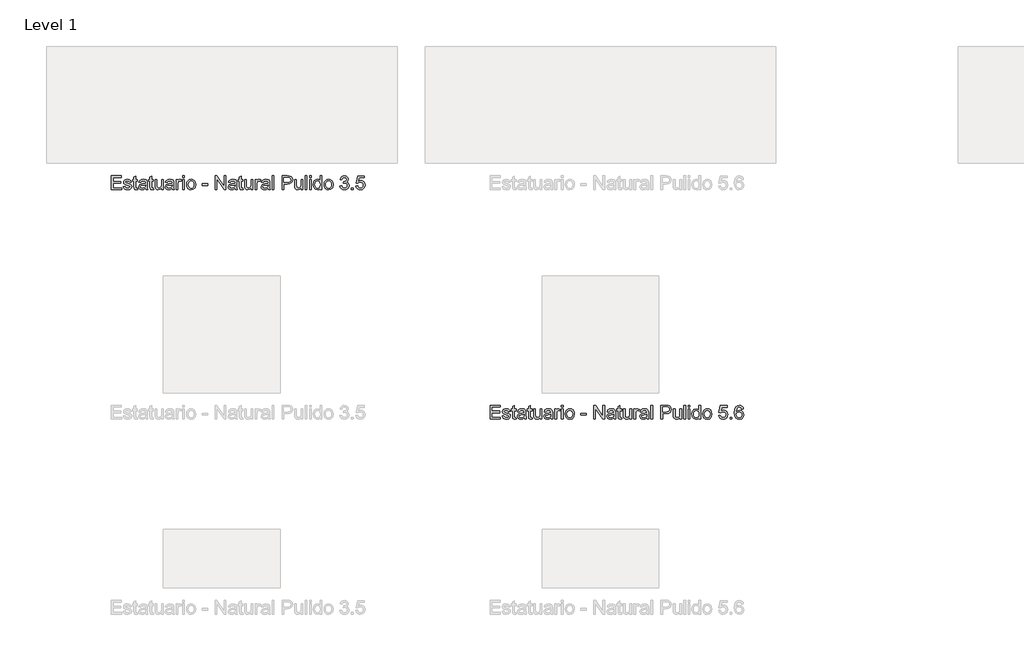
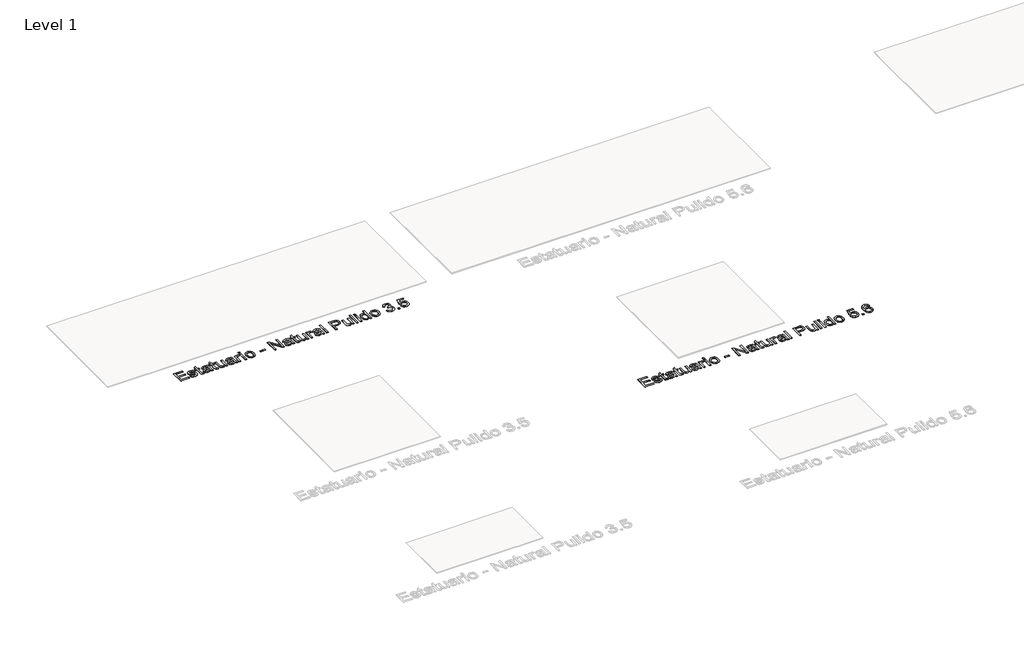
# One storey, part 77 of 80: 2 proxies.
"""IFC4 building model written with IfcOpenShell, lengths in millimetres."""

from ifc_helpers import new_model, si_unit, origin, origin_with_axes, place, context, project, spatial, polyline, outline, extrude, element, save

model = new_model("IFC4")

# Units and contexts
model_context = context("Model", 3, world=origin())
ifc_project = project(units=[si_unit("LENGTHUNIT", "METRE", prefix="MILLI")], contexts=[model_context])

# Site, building, storey
site = spatial("IfcSite", under=ifc_project)
building = spatial("IfcBuilding", under=site)
storey = spatial("IfcBuildingStorey", under=building, Name="Level 1", Elevation=0.0)

# Proxies
placement = place(None, origin())
element("IfcBuildingElementProxy", 1, Name="24\" Arial", ObjectType="24\" Arial", at=placement, inside=storey, context=model_context, shape_type="SweptSolid", body=[
    extrude(outline(polyline([(7830.1546613, 17258.6980297), (7830.1546613, 17376.8518759), (7915.0777383, 17376.8518759), (7915.0777383, 17362.0826451), (7844.9238921, 17362.0826451), (7844.9238921, 17327.005722), (7911.3854306, 17327.005722), (7911.3854306, 17312.2364912), (7844.9238921, 17312.2364912), (7844.9238921, 17273.4672605), (7916.9238921, 17273.4672605), (7916.9238921, 17258.6980297), (7830.1546613, 17258.6980297)])), origin_with_axes(), (0.0, 0.0, 1.0), 2.0),
    extrude(outline(polyline([(7931.6931229, 17284.5441836), (7946.4623536, 17286.3903374), (7953.2988921, 17275.4287989), (7968.9623536, 17271.6211066), (7984.0200459, 17275.1114912), (7988.9238921, 17283.3037989), (7983.9911998, 17289.9384143), (7968.7892767, 17294.1499528), (7946.5488921, 17301.3759143), (7936.8421613, 17309.8134143), (7933.5392767, 17321.7268759), (7936.1931229, 17332.7316836), (7943.4335075, 17341.1403374), (7952.8229306, 17345.5105297), (7965.5296613, 17347.3134143), (7983.5008152, 17344.4143759), (7994.9238921, 17336.568222), (8000.0008152, 17323.3134143), (7985.2315844, 17321.4672605), (7979.6786998, 17329.6162989), (7966.6835075, 17332.5441836), (7952.5488921, 17329.7461066), (7948.3085075, 17323.2268759), (7950.0681229, 17318.9287989), (7955.5777383, 17315.6691836), (7968.2988921, 17312.5249528), (7989.9767767, 17305.5730297), (8000.0440844, 17297.6980297), (8003.6931229, 17284.8614912), (7999.409469, 17270.7268759), (7987.0488921, 17260.4720682), (7968.7604306, 17256.8518759), (7953.8686036, 17258.5970682), (7943.0008152, 17263.8326451), (7935.7460075, 17272.5009143), (7931.6931229, 17284.5441836)])), origin_with_axes(), (0.0, 0.0, 1.0), 2.0),
    extrude(outline(polyline([(8051.6931229, 17271.0153374), (8053.5392767, 17258.2653374), (8042.4911998, 17256.8518759), (8030.1161998, 17259.3037989), (8023.9431229, 17265.7364912), (8022.1546613, 17282.4961066), (8022.1546613, 17330.6980297), (8011.0777383, 17330.6980297), (8011.0777383, 17345.4672605), (8022.1546613, 17345.4672605), (8022.1546613, 17366.5537989), (8036.9238921, 17375.2364912), (8036.9238921, 17345.4672605), (8051.6931229, 17345.4672605), (8051.6931229, 17330.6980297), (8036.9238921, 17330.6980297), (8036.9238921, 17282.9287989), (8037.7027383, 17275.3134143), (8040.2267767, 17272.6162989), (8045.2604306, 17271.6211066), (8051.6931229, 17271.0153374)])), origin_with_axes(), (0.0, 0.0, 1.0), 2.0),
    extrude(outline(polyline([(8121.846969, 17269.7749528), (8107.5248536, 17259.7653374), (8091.7027383, 17256.8518759), (8079.3601902, 17258.6042797), (8070.2556229, 17263.8614912), (8064.6414402, 17271.8446643), (8062.7700459, 17281.7749528), (8065.596969, 17293.4576451), (8073.0248536, 17301.9384143), (8083.3661998, 17306.7845682), (8096.1450459, 17309.005722), (8121.7604306, 17314.0826451), (8121.846969, 17317.3711066), (8117.7796613, 17328.2749528), (8101.4527383, 17332.5441836), (8086.5104306, 17329.7028374), (8079.3854306, 17319.6211066), (8064.6161998, 17321.4672605), (8071.0056229, 17335.8903374), (8083.8710075, 17344.3422605), (8103.3565844, 17347.3134143), (8121.2556229, 17344.6884143), (8131.3661998, 17338.0970682), (8135.8950459, 17328.0730297), (8136.6161998, 17315.1499528), (8136.6161998, 17296.7749528), (8137.3661998, 17271.1162989), (8140.3085075, 17258.6980297), (8125.5392767, 17258.6980297), (8121.846969, 17269.7749528)]), holes=[polyline([(8121.846969, 17299.3134143), (8098.0200459, 17294.7845682), (8085.3133152, 17292.3903374), (8079.5585075, 17288.4961066), (8077.5392767, 17282.8134143), (8081.9383152, 17274.8230297), (8094.846969, 17271.6211066), (8109.7892767, 17275.1547605), (8119.4238921, 17283.7076451), (8121.7604306, 17295.130722), (8121.846969, 17299.3134143)])]), origin_with_axes(), (0.0, 0.0, 1.0), 2.0),
    extrude(outline(polyline([(8188.3085075, 17271.0153374), (8190.1546613, 17258.2653374), (8179.1065844, 17256.8518759), (8166.7315844, 17259.3037989), (8160.5585075, 17265.7364912), (8158.7700459, 17282.4961066), (8158.7700459, 17330.6980297), (8147.6931229, 17330.6980297), (8147.6931229, 17345.4672605), (8158.7700459, 17345.4672605), (8158.7700459, 17366.5537989), (8173.5392767, 17375.2364912), (8173.5392767, 17345.4672605), (8188.3085075, 17345.4672605), (8188.3085075, 17330.6980297), (8173.5392767, 17330.6980297), (8173.5392767, 17282.9287989), (8174.3181229, 17275.3134143), (8176.8421613, 17272.6162989), (8181.8758152, 17271.6211066), (8188.3085075, 17271.0153374)])), origin_with_axes(), (0.0, 0.0, 1.0), 2.0),
    extrude(outline(polyline([(8258.4623536, 17258.6980297), (8258.4623536, 17273.6114912), (8246.8950459, 17261.0417797), (8231.8085075, 17256.8518759), (8217.9190844, 17259.7941836), (8208.3421613, 17267.1787989), (8203.9431229, 17278.0537989), (8203.0777383, 17291.7845682), (8203.0777383, 17345.4672605), (8217.846969, 17345.4672605), (8217.846969, 17298.7364912), (8218.7411998, 17283.6787989), (8224.5825459, 17274.8374528), (8235.5873536, 17271.6211066), (8247.9190844, 17274.9095682), (8256.0681229, 17283.8662989), (8258.4623536, 17300.3230297), (8258.4623536, 17345.4672605), (8273.2315844, 17345.4672605), (8273.2315844, 17258.6980297), (8258.4623536, 17258.6980297)])), origin_with_axes(), (0.0, 0.0, 1.0), 2.0),
    extrude(outline(polyline([(8348.9238921, 17269.7749528), (8334.6017767, 17259.7653374), (8318.7796613, 17256.8518759), (8306.4371133, 17258.6042797), (8297.3325459, 17263.8614912), (8291.7183633, 17271.8446643), (8289.846969, 17281.7749528), (8292.6738921, 17293.4576451), (8300.1017767, 17301.9384143), (8310.4431229, 17306.7845682), (8323.221969, 17309.005722), (8348.8373536, 17314.0826451), (8348.9238921, 17317.3711066), (8344.8565844, 17328.2749528), (8328.5296613, 17332.5441836), (8313.5873536, 17329.7028374), (8306.4623536, 17319.6211066), (8291.6931229, 17321.4672605), (8298.0825459, 17335.8903374), (8310.9479306, 17344.3422605), (8330.4335075, 17347.3134143), (8348.3325459, 17344.6884143), (8358.4431229, 17338.0970682), (8362.971969, 17328.0730297), (8363.6931229, 17315.1499528), (8363.6931229, 17296.7749528), (8364.4431229, 17271.1162989), (8367.3854306, 17258.6980297), (8352.6161998, 17258.6980297), (8348.9238921, 17269.7749528)]), holes=[polyline([(8348.9238921, 17299.3134143), (8325.096969, 17294.7845682), (8312.3902383, 17292.3903374), (8306.6354306, 17288.4961066), (8304.6161998, 17282.8134143), (8309.0152383, 17274.8230297), (8321.9238921, 17271.6211066), (8336.8661998, 17275.1547605), (8346.5008152, 17283.7076451), (8348.8373536, 17295.130722), (8348.9238921, 17299.3134143)])]), origin_with_axes(), (0.0, 0.0, 1.0), 2.0),
    extrude(outline(polyline([(8384.0008152, 17258.6980297), (8384.0008152, 17345.4672605), (8396.9238921, 17345.4672605), (8396.9238921, 17332.630722), (8406.096969, 17344.4576451), (8415.3277383, 17347.3134143), (8430.1546613, 17342.755722), (8425.221969, 17329.5153374), (8414.8373536, 17332.5441836), (8406.4863921, 17329.630722), (8401.1642767, 17321.5537989), (8398.7700459, 17304.3037989), (8398.7700459, 17258.6980297), (8384.0008152, 17258.6980297)])), origin_with_axes(), (0.0, 0.0, 1.0), 2.0),
    extrude(outline(polyline([(8439.3854306, 17362.0826451), (8439.3854306, 17376.8518759), (8454.1546613, 17376.8518759), (8454.1546613, 17362.0826451), (8439.3854306, 17362.0826451)])), origin_with_axes(), (0.0, 0.0, 1.0), 2.0),
    extrude(outline(polyline([(8439.3854306, 17258.6980297), (8439.3854306, 17345.4672605), (8454.1546613, 17345.4672605), (8454.1546613, 17258.6980297), (8439.3854306, 17258.6980297)])), origin_with_axes(), (0.0, 0.0, 1.0), 2.0),
    extrude(outline(polyline([(8472.6161998, 17302.0826451), (8475.8109113, 17323.0033182), (8485.3950459, 17337.7076451), (8497.2363921, 17344.911972), (8511.4142767, 17347.3134143), (8526.9299017, 17344.3891355), (8539.3229306, 17335.6162989), (8547.4467286, 17321.6872124), (8550.1546613, 17303.2941836), (8545.3661998, 17277.0153374), (8531.4190844, 17262.1451451), (8511.4142767, 17256.8518759), (8495.7111517, 17259.7653374), (8483.3325459, 17268.505722), (8475.2952863, 17282.7268759), (8472.6161998, 17302.0826451)]), holes=[polyline([(8487.3854306, 17302.1114912), (8489.0945652, 17288.7449047), (8494.221969, 17279.2220682), (8501.9383152, 17273.521347), (8511.4142767, 17271.6211066), (8520.846969, 17273.5321643), (8528.5488921, 17279.2653374), (8533.6762959, 17288.9143759), (8535.3854306, 17302.5730297), (8533.6654786, 17315.5501932), (8528.5056229, 17324.943222), (8520.7928825, 17330.6439432), (8511.4142767, 17332.5441836), (8501.9383152, 17330.6511547), (8494.221969, 17324.9720682), (8489.0945652, 17315.4708662), (8487.3854306, 17302.1114912)])]), origin_with_axes(), (0.0, 0.0, 1.0), 2.0),
    extrude(outline(polyline([(8605.5392767, 17293.7749528), (8605.5392767, 17308.5441836), (8651.6931229, 17308.5441836), (8651.6931229, 17293.7749528), (8605.5392767, 17293.7749528)])), origin_with_axes(), (0.0, 0.0, 1.0), 2.0),
    extrude(outline(polyline([(8716.3085075, 17258.6980297), (8716.3085075, 17376.8518759), (8732.1161998, 17376.8518759), (8793.846969, 17283.2461066), (8793.846969, 17376.8518759), (8808.6161998, 17376.8518759), (8808.6161998, 17258.6980297), (8792.8085075, 17258.6980297), (8731.0777383, 17352.3326451), (8731.0777383, 17258.6980297), (8716.3085075, 17258.6980297)])), origin_with_axes(), (0.0, 0.0, 1.0), 2.0),
    extrude(outline(polyline([(8888.0008152, 17269.7749528), (8873.6786998, 17259.7653374), (8857.8565844, 17256.8518759), (8845.5140363, 17258.6042797), (8836.409469, 17263.8614912), (8830.7952863, 17271.8446643), (8828.9238921, 17281.7749528), (8831.7508152, 17293.4576451), (8839.1786998, 17301.9384143), (8849.5200459, 17306.7845682), (8862.2988921, 17309.005722), (8887.9142767, 17314.0826451), (8888.0008152, 17317.3711066), (8883.9335075, 17328.2749528), (8867.6065844, 17332.5441836), (8852.6642767, 17329.7028374), (8845.5392767, 17319.6211066), (8830.7700459, 17321.4672605), (8837.159469, 17335.8903374), (8850.0248536, 17344.3422605), (8869.5104306, 17347.3134143), (8887.409469, 17344.6884143), (8897.5200459, 17338.0970682), (8902.0488921, 17328.0730297), (8902.7700459, 17315.1499528), (8902.7700459, 17296.7749528), (8903.5200459, 17271.1162989), (8906.4623536, 17258.6980297), (8891.6931229, 17258.6980297), (8888.0008152, 17269.7749528)]), holes=[polyline([(8888.0008152, 17299.3134143), (8864.1738921, 17294.7845682), (8851.4671613, 17292.3903374), (8845.7123536, 17288.4961066), (8843.6931229, 17282.8134143), (8848.0921613, 17274.8230297), (8861.0008152, 17271.6211066), (8875.9431229, 17275.1547605), (8885.5777383, 17283.7076451), (8887.9142767, 17295.130722), (8888.0008152, 17299.3134143)])]), origin_with_axes(), (0.0, 0.0, 1.0), 2.0),
    extrude(outline(polyline([(8954.4623536, 17271.0153374), (8956.3085075, 17258.2653374), (8945.2604306, 17256.8518759), (8932.8854306, 17259.3037989), (8926.7123536, 17265.7364912), (8924.9238921, 17282.4961066), (8924.9238921, 17330.6980297), (8913.846969, 17330.6980297), (8913.846969, 17345.4672605), (8924.9238921, 17345.4672605), (8924.9238921, 17366.5537989), (8939.6931229, 17375.2364912), (8939.6931229, 17345.4672605), (8954.4623536, 17345.4672605), (8954.4623536, 17330.6980297), (8939.6931229, 17330.6980297), (8939.6931229, 17282.9287989), (8940.471969, 17275.3134143), (8942.9960075, 17272.6162989), (8948.0296613, 17271.6211066), (8954.4623536, 17271.0153374)])), origin_with_axes(), (0.0, 0.0, 1.0), 2.0),
    extrude(outline(polyline([(9024.6161998, 17258.6980297), (9024.6161998, 17273.6114912), (9013.0488921, 17261.0417797), (8997.9623536, 17256.8518759), (8984.0729306, 17259.7941836), (8974.4960075, 17267.1787989), (8970.096969, 17278.0537989), (8969.2315844, 17291.7845682), (8969.2315844, 17345.4672605), (8984.0008152, 17345.4672605), (8984.0008152, 17298.7364912), (8984.8950459, 17283.6787989), (8990.7363921, 17274.8374528), (9001.7411998, 17271.6211066), (9014.0729306, 17274.9095682), (9022.221969, 17283.8662989), (9024.6161998, 17300.3230297), (9024.6161998, 17345.4672605), (9039.3854306, 17345.4672605), (9039.3854306, 17258.6980297), (9024.6161998, 17258.6980297)])), origin_with_axes(), (0.0, 0.0, 1.0), 2.0),
    extrude(outline(polyline([(9059.6931229, 17258.6980297), (9059.6931229, 17345.4672605), (9072.6161998, 17345.4672605), (9072.6161998, 17332.630722), (9081.7892767, 17344.4576451), (9091.0200459, 17347.3134143), (9105.846969, 17342.755722), (9100.9142767, 17329.5153374), (9090.5296613, 17332.5441836), (9082.1786998, 17329.630722), (9076.8565844, 17321.5537989), (9074.4623536, 17304.3037989), (9074.4623536, 17258.6980297), (9059.6931229, 17258.6980297)])), origin_with_axes(), (0.0, 0.0, 1.0), 2.0),
    extrude(outline(polyline([(9170.4623536, 17269.7749528), (9156.1402383, 17259.7653374), (9140.3181229, 17256.8518759), (9127.9755748, 17258.6042797), (9118.8710075, 17263.8614912), (9113.2568248, 17271.8446643), (9111.3854306, 17281.7749528), (9114.2123536, 17293.4576451), (9121.6402383, 17301.9384143), (9131.9815844, 17306.7845682), (9144.7604306, 17309.005722), (9170.3758152, 17314.0826451), (9170.4623536, 17317.3711066), (9166.3950459, 17328.2749528), (9150.0681229, 17332.5441836), (9135.1258152, 17329.7028374), (9128.0008152, 17319.6211066), (9113.2315844, 17321.4672605), (9119.6210075, 17335.8903374), (9132.4863921, 17344.3422605), (9151.971969, 17347.3134143), (9169.8710075, 17344.6884143), (9179.9815844, 17338.0970682), (9184.5104306, 17328.0730297), (9185.2315844, 17315.1499528), (9185.2315844, 17296.7749528), (9185.9815844, 17271.1162989), (9188.9238921, 17258.6980297), (9174.1546613, 17258.6980297), (9170.4623536, 17269.7749528)]), holes=[polyline([(9170.4623536, 17299.3134143), (9146.6354306, 17294.7845682), (9133.9286998, 17292.3903374), (9128.1738921, 17288.4961066), (9126.1546613, 17282.8134143), (9130.5536998, 17274.8230297), (9143.4623536, 17271.6211066), (9158.4046613, 17275.1547605), (9168.0392767, 17283.7076451), (9170.3758152, 17295.130722), (9170.4623536, 17299.3134143)])]), origin_with_axes(), (0.0, 0.0, 1.0), 2.0),
    extrude(outline(polyline([(9205.5392767, 17258.6980297), (9205.5392767, 17376.8518759), (9220.3085075, 17376.8518759), (9220.3085075, 17258.6980297), (9205.5392767, 17258.6980297)])), origin_with_axes(), (0.0, 0.0, 1.0), 2.0),
    extrude(outline(polyline([(9290.4623536, 17258.6980297), (9290.4623536, 17376.8518759), (9334.2508152, 17376.8518759), (9351.9046613, 17375.7268759), (9366.2556229, 17370.2028374), (9375.5585075, 17358.7797605), (9379.0777383, 17342.6691836), (9376.7015363, 17328.7437028), (9369.5729306, 17317.1403374), (9356.2424017, 17309.3086066), (9335.2604306, 17306.6980297), (9305.2315844, 17306.6980297), (9305.2315844, 17258.6980297), (9290.4623536, 17258.6980297)]), holes=[polyline([(9305.2315844, 17321.4672605), (9336.1258152, 17321.4672605), (9349.221969, 17322.8230297), (9357.8758152, 17326.8903374), (9362.7003344, 17333.4167797), (9364.3085075, 17342.1499528), (9360.5152383, 17354.380722), (9350.5488921, 17361.0730297), (9335.7796613, 17362.0826451), (9305.2315844, 17362.0826451), (9305.2315844, 17321.4672605)])]), origin_with_axes(), (0.0, 0.0, 1.0), 2.0),
    extrude(outline(polyline([(9452.9238921, 17258.6980297), (9452.9238921, 17273.6114912), (9441.3565844, 17261.0417797), (9426.2700459, 17256.8518759), (9412.3806229, 17259.7941836), (9402.8036998, 17267.1787989), (9398.4046613, 17278.0537989), (9397.5392767, 17291.7845682), (9397.5392767, 17345.4672605), (9412.3085075, 17345.4672605), (9412.3085075, 17298.7364912), (9413.2027383, 17283.6787989), (9419.0440844, 17274.8374528), (9430.0488921, 17271.6211066), (9442.3806229, 17274.9095682), (9450.5296613, 17283.8662989), (9452.9238921, 17300.3230297), (9452.9238921, 17345.4672605), (9467.6931229, 17345.4672605), (9467.6931229, 17258.6980297), (9452.9238921, 17258.6980297)])), origin_with_axes(), (0.0, 0.0, 1.0), 2.0),
    extrude(outline(polyline([(9488.0008152, 17258.6980297), (9488.0008152, 17376.8518759), (9502.7700459, 17376.8518759), (9502.7700459, 17258.6980297), (9488.0008152, 17258.6980297)])), origin_with_axes(), (0.0, 0.0, 1.0), 2.0),
    extrude(outline(polyline([(9524.9238921, 17362.0826451), (9524.9238921, 17376.8518759), (9539.6931229, 17376.8518759), (9539.6931229, 17362.0826451), (9524.9238921, 17362.0826451)])), origin_with_axes(), (0.0, 0.0, 1.0), 2.0),
    extrude(outline(polyline([(9524.9238921, 17258.6980297), (9524.9238921, 17345.4672605), (9539.6931229, 17345.4672605), (9539.6931229, 17258.6980297), (9524.9238921, 17258.6980297)])), origin_with_axes(), (0.0, 0.0, 1.0), 2.0),
    extrude(outline(polyline([(9615.3854306, 17258.6980297), (9615.3854306, 17272.630722), (9605.6137959, 17260.7965874), (9592.1065844, 17256.8518759), (9573.8181229, 17262.5634143), (9560.8950459, 17278.5009143), (9556.3085075, 17301.9961066), (9560.534469, 17325.505722), (9565.8133152, 17334.8302412), (9573.1979306, 17341.6884143), (9592.0488921, 17347.3134143), (9605.6642767, 17343.2893759), (9615.3854306, 17332.8326451), (9615.3854306, 17376.8518759), (9630.1546613, 17376.8518759), (9630.1546613, 17258.6980297), (9615.3854306, 17258.6980297)]), holes=[polyline([(9571.0777383, 17302.0537989), (9572.7436036, 17288.6944239), (9577.7411998, 17279.193222), (9585.003219, 17273.5141355), (9593.4623536, 17271.6211066), (9601.9178825, 17273.427597), (9608.9960075, 17278.8470682), (9613.7880748, 17287.9804816), (9615.3854306, 17300.9287989), (9613.7592286, 17315.0850489), (9608.8806229, 17324.8999528), (9601.6222094, 17330.6331259), (9592.8565844, 17332.5441836), (9584.3109113, 17330.708847), (9577.3085075, 17325.2028374), (9572.6354306, 17315.7449047), (9571.0777383, 17302.0537989)])]), origin_with_axes(), (0.0, 0.0, 1.0), 2.0),
    extrude(outline(polyline([(9648.6161998, 17302.0826451), (9651.8109113, 17323.0033182), (9661.3950459, 17337.7076451), (9673.2363921, 17344.911972), (9687.4142767, 17347.3134143), (9702.9299017, 17344.3891355), (9715.3229306, 17335.6162989), (9723.4467286, 17321.6872124), (9726.1546613, 17303.2941836), (9721.3661998, 17277.0153374), (9707.4190844, 17262.1451451), (9687.4142767, 17256.8518759), (9671.7111517, 17259.7653374), (9659.3325459, 17268.505722), (9651.2952863, 17282.7268759), (9648.6161998, 17302.0826451)]), holes=[polyline([(9663.3854306, 17302.1114912), (9665.0945652, 17288.7449047), (9670.221969, 17279.2220682), (9677.9383152, 17273.521347), (9687.4142767, 17271.6211066), (9696.846969, 17273.5321643), (9704.5488921, 17279.2653374), (9709.6762959, 17288.9143759), (9711.3854306, 17302.5730297), (9709.6654786, 17315.5501932), (9704.5056229, 17324.943222), (9696.7928825, 17330.6439432), (9687.4142767, 17332.5441836), (9677.9383152, 17330.6511547), (9670.221969, 17324.9720682), (9665.0945652, 17315.4708662), (9663.3854306, 17302.1114912)])]), origin_with_axes(), (0.0, 0.0, 1.0), 2.0),
    extrude(outline(polyline([(9785.2315844, 17290.0826451), (9800.0008152, 17291.9287989), (9807.4431229, 17276.7124528), (9822.8758152, 17271.6211066), (9833.4623536, 17273.3915393), (9841.3950459, 17278.7028374), (9846.3493729, 17286.9420201), (9848.0008152, 17297.4961066), (9846.4539402, 17307.4336066), (9841.8133152, 17315.0345682), (9834.0428825, 17319.8590874), (9823.1065844, 17321.4672605), (9810.1402383, 17318.8999528), (9801.846969, 17312.2364912), (9787.0777383, 17314.0826451), (9800.0008152, 17375.005722), (9857.2315844, 17375.005722), (9857.2315844, 17360.2364912), (9811.9431229, 17360.2364912), (9805.6258152, 17327.6980297), (9816.1762959, 17334.1018759), (9827.2315844, 17336.2364912), (9841.0308633, 17333.5898566), (9852.4863921, 17325.6499528), (9860.1991325, 17313.5489912), (9862.7700459, 17298.4191836), (9860.4551421, 17283.6499528), (9853.5104306, 17271.0153374), (9840.2123536, 17260.3927412), (9822.8181229, 17256.8518759), (9808.3121133, 17259.1271162), (9796.7556229, 17265.9528374), (9788.8337479, 17276.5357701), (9785.2315844, 17290.0826451)])), origin_with_axes(), (0.0, 0.0, 1.0), 2.0),
    extrude(outline(polyline([(9883.0777383, 17258.6980297), (9883.0777383, 17273.4672605), (9897.846969, 17273.4672605), (9897.846969, 17258.6980297), (9883.0777383, 17258.6980297)])), origin_with_axes(), (0.0, 0.0, 1.0), 2.0),
    extrude(outline(polyline([(9997.5392767, 17345.4672605), (9982.7700459, 17343.6211066), (9977.1738921, 17355.9384143), (9970.4743729, 17360.5465874), (9962.3758152, 17362.0826451), (9949.0488921, 17358.505722), (9938.9671613, 17345.0778374), (9934.7700459, 17318.755722), (9947.7940844, 17330.5393759), (9963.9335075, 17334.3903374), (9977.5777383, 17331.7581259), (9989.0296613, 17323.8614912), (9996.7964883, 17311.7965874), (9999.3854306, 17296.6595682), (9994.5104306, 17276.2797605), (9981.096969, 17261.8566836), (9961.7411998, 17256.8518759), (9944.9851902, 17260.1691836), (9931.6402383, 17270.1211066), (9922.9106709, 17287.6884143), (9920.0008152, 17313.8518759), (9923.2315844, 17343.2677412), (9932.9238921, 17363.380722), (9946.1570652, 17373.4840874), (9963.2988921, 17376.8518759), (9976.2580267, 17374.7677412), (9986.6354306, 17368.5153374), (9993.9046613, 17358.5850489), (9997.5392767, 17345.4672605)]), holes=[polyline([(9934.7700459, 17296.8903374), (9938.1883152, 17284.0970682), (9947.2748536, 17274.8086066), (9960.5873536, 17271.6211066), (9970.3337479, 17273.2725489), (9977.9960075, 17278.2268759), (9982.9611517, 17286.0153374), (9984.6161998, 17296.1691836), (9982.9827863, 17305.9155778), (9978.0825459, 17313.3470682), (9970.2904786, 17318.052597), (9959.9815844, 17319.6211066), (9950.2496133, 17318.052597), (9942.1113921, 17313.3470682), (9936.6053825, 17306.0958662), (9934.7700459, 17296.8903374)])]), origin_with_axes(), (0.0, 0.0, 1.0), 2.0),
])
element("IfcBuildingElementProxy", 2, Name="24\" Arial", ObjectType="24\" Arial", at=placement, inside=storey, context=model_context, shape_type="SweptSolid", body=[
    extrude(outline(polyline([(4590.1546613, 19224.0250725), (4590.1546613, 19342.1789187), (4675.0777383, 19342.1789187), (4675.0777383, 19327.4096879), (4604.9238921, 19327.4096879), (4604.9238921, 19292.3327648), (4671.3854306, 19292.3327648), (4671.3854306, 19277.563534), (4604.9238921, 19277.563534), (4604.9238921, 19238.7943033), (4676.9238921, 19238.7943033), (4676.9238921, 19224.0250725), (4590.1546613, 19224.0250725)])), origin_with_axes(), (0.0, 0.0, 1.0), 2.0),
    extrude(outline(polyline([(4691.6931229, 19249.8712264), (4706.4623536, 19251.7173802), (4713.2988921, 19240.7558417), (4728.9623536, 19236.9481494), (4744.0200459, 19240.438534), (4748.9238921, 19248.6308417), (4743.9911998, 19255.2654571), (4728.7892767, 19259.4769956), (4706.5488921, 19266.7029571), (4696.8421613, 19275.1404571), (4693.5392767, 19287.0539187), (4696.1931229, 19298.0587264), (4703.4335075, 19306.4673802), (4712.8229306, 19310.8375725), (4725.5296613, 19312.6404571), (4743.5008152, 19309.7414187), (4754.9238921, 19301.8952648), (4760.0008152, 19288.6404571), (4745.2315844, 19286.7943033), (4739.6786998, 19294.9433417), (4726.6835075, 19297.8712264), (4712.5488921, 19295.0731494), (4708.3085075, 19288.5539187), (4710.0681229, 19284.2558417), (4715.5777383, 19280.9962264), (4728.2988921, 19277.8519956), (4749.9767767, 19270.9000725), (4760.0440844, 19263.0250725), (4763.6931229, 19250.188534), (4759.409469, 19236.0539187), (4747.0488921, 19225.799111), (4728.7604306, 19222.1789187), (4713.8686036, 19223.924111), (4703.0008152, 19229.1596879), (4695.7460075, 19237.8279571), (4691.6931229, 19249.8712264)])), origin_with_axes(), (0.0, 0.0, 1.0), 2.0),
    extrude(outline(polyline([(4811.6931229, 19236.3423802), (4813.5392767, 19223.5923802), (4802.4911998, 19222.1789187), (4790.1161998, 19224.6308417), (4783.9431229, 19231.063534), (4782.1546613, 19247.8231494), (4782.1546613, 19296.0250725), (4771.0777383, 19296.0250725), (4771.0777383, 19310.7943033), (4782.1546613, 19310.7943033), (4782.1546613, 19331.8808417), (4796.9238921, 19340.563534), (4796.9238921, 19310.7943033), (4811.6931229, 19310.7943033), (4811.6931229, 19296.0250725), (4796.9238921, 19296.0250725), (4796.9238921, 19248.2558417), (4797.7027383, 19240.6404571), (4800.2267767, 19237.9433417), (4805.2604306, 19236.9481494), (4811.6931229, 19236.3423802)])), origin_with_axes(), (0.0, 0.0, 1.0), 2.0),
    extrude(outline(polyline([(4881.846969, 19235.1019956), (4867.5248536, 19225.0923802), (4851.7027383, 19222.1789187), (4839.3601902, 19223.9313225), (4830.2556229, 19229.188534), (4824.6414402, 19237.1717071), (4822.7700459, 19247.1019956), (4825.596969, 19258.7846879), (4833.0248536, 19267.2654571), (4843.3661998, 19272.111611), (4856.1450459, 19274.3327648), (4881.7604306, 19279.4096879), (4881.846969, 19282.6981494), (4877.7796613, 19293.6019956), (4861.4527383, 19297.8712264), (4846.5104306, 19295.0298802), (4839.3854306, 19284.9481494), (4824.6161998, 19286.7943033), (4831.0056229, 19301.2173802), (4843.8710075, 19309.6693033), (4863.3565844, 19312.6404571), (4881.2556229, 19310.0154571), (4891.3661998, 19303.424111), (4895.8950459, 19293.4000725), (4896.6161998, 19280.4769956), (4896.6161998, 19262.1019956), (4897.3661998, 19236.4433417), (4900.3085075, 19224.0250725), (4885.5392767, 19224.0250725), (4881.846969, 19235.1019956)]), holes=[polyline([(4881.846969, 19264.6404571), (4858.0200459, 19260.111611), (4845.3133152, 19257.7173802), (4839.5585075, 19253.8231494), (4837.5392767, 19248.1404571), (4841.9383152, 19240.1500725), (4854.846969, 19236.9481494), (4869.7892767, 19240.4818033), (4879.4238921, 19249.0346879), (4881.7604306, 19260.4577648), (4881.846969, 19264.6404571)])]), origin_with_axes(), (0.0, 0.0, 1.0), 2.0),
    extrude(outline(polyline([(4948.3085075, 19236.3423802), (4950.1546613, 19223.5923802), (4939.1065844, 19222.1789187), (4926.7315844, 19224.6308417), (4920.5585075, 19231.063534), (4918.7700459, 19247.8231494), (4918.7700459, 19296.0250725), (4907.6931229, 19296.0250725), (4907.6931229, 19310.7943033), (4918.7700459, 19310.7943033), (4918.7700459, 19331.8808417), (4933.5392767, 19340.563534), (4933.5392767, 19310.7943033), (4948.3085075, 19310.7943033), (4948.3085075, 19296.0250725), (4933.5392767, 19296.0250725), (4933.5392767, 19248.2558417), (4934.3181229, 19240.6404571), (4936.8421613, 19237.9433417), (4941.8758152, 19236.9481494), (4948.3085075, 19236.3423802)])), origin_with_axes(), (0.0, 0.0, 1.0), 2.0),
    extrude(outline(polyline([(5018.4623536, 19224.0250725), (5018.4623536, 19238.938534), (5006.8950459, 19226.3688225), (4991.8085075, 19222.1789187), (4977.9190844, 19225.1212264), (4968.3421613, 19232.5058417), (4963.9431229, 19243.3808417), (4963.0777383, 19257.111611), (4963.0777383, 19310.7943033), (4977.846969, 19310.7943033), (4977.846969, 19264.063534), (4978.7411998, 19249.0058417), (4984.5825459, 19240.1644956), (4995.5873536, 19236.9481494), (5007.9190844, 19240.236611), (5016.0681229, 19249.1933417), (5018.4623536, 19265.6500725), (5018.4623536, 19310.7943033), (5033.2315844, 19310.7943033), (5033.2315844, 19224.0250725), (5018.4623536, 19224.0250725)])), origin_with_axes(), (0.0, 0.0, 1.0), 2.0),
    extrude(outline(polyline([(5108.9238921, 19235.1019956), (5094.6017767, 19225.0923802), (5078.7796613, 19222.1789187), (5066.4371133, 19223.9313225), (5057.3325459, 19229.188534), (5051.7183633, 19237.1717071), (5049.846969, 19247.1019956), (5052.6738921, 19258.7846879), (5060.1017767, 19267.2654571), (5070.4431229, 19272.111611), (5083.221969, 19274.3327648), (5108.8373536, 19279.4096879), (5108.9238921, 19282.6981494), (5104.8565844, 19293.6019956), (5088.5296613, 19297.8712264), (5073.5873536, 19295.0298802), (5066.4623536, 19284.9481494), (5051.6931229, 19286.7943033), (5058.0825459, 19301.2173802), (5070.9479306, 19309.6693033), (5090.4335075, 19312.6404571), (5108.3325459, 19310.0154571), (5118.4431229, 19303.424111), (5122.971969, 19293.4000725), (5123.6931229, 19280.4769956), (5123.6931229, 19262.1019956), (5124.4431229, 19236.4433417), (5127.3854306, 19224.0250725), (5112.6161998, 19224.0250725), (5108.9238921, 19235.1019956)]), holes=[polyline([(5108.9238921, 19264.6404571), (5085.096969, 19260.111611), (5072.3902383, 19257.7173802), (5066.6354306, 19253.8231494), (5064.6161998, 19248.1404571), (5069.0152383, 19240.1500725), (5081.9238921, 19236.9481494), (5096.8661998, 19240.4818033), (5106.5008152, 19249.0346879), (5108.8373536, 19260.4577648), (5108.9238921, 19264.6404571)])]), origin_with_axes(), (0.0, 0.0, 1.0), 2.0),
    extrude(outline(polyline([(5144.0008152, 19224.0250725), (5144.0008152, 19310.7943033), (5156.9238921, 19310.7943033), (5156.9238921, 19297.9577648), (5166.096969, 19309.7846879), (5175.3277383, 19312.6404571), (5190.1546613, 19308.0827648), (5185.221969, 19294.8423802), (5174.8373536, 19297.8712264), (5166.4863921, 19294.9577648), (5161.1642767, 19286.8808417), (5158.7700459, 19269.6308417), (5158.7700459, 19224.0250725), (5144.0008152, 19224.0250725)])), origin_with_axes(), (0.0, 0.0, 1.0), 2.0),
    extrude(outline(polyline([(5199.3854306, 19327.4096879), (5199.3854306, 19342.1789187), (5214.1546613, 19342.1789187), (5214.1546613, 19327.4096879), (5199.3854306, 19327.4096879)])), origin_with_axes(), (0.0, 0.0, 1.0), 2.0),
    extrude(outline(polyline([(5199.3854306, 19224.0250725), (5199.3854306, 19310.7943033), (5214.1546613, 19310.7943033), (5214.1546613, 19224.0250725), (5199.3854306, 19224.0250725)])), origin_with_axes(), (0.0, 0.0, 1.0), 2.0),
    extrude(outline(polyline([(5232.6161998, 19267.4096879), (5235.8109113, 19288.330361), (5245.3950459, 19303.0346879), (5257.2363921, 19310.2390148), (5271.4142767, 19312.6404571), (5286.9299017, 19309.7161783), (5299.3229306, 19300.9433417), (5307.4467286, 19287.0142552), (5310.1546613, 19268.6212264), (5305.3661998, 19242.3423802), (5291.4190844, 19227.4721879), (5271.4142767, 19222.1789187), (5255.7111517, 19225.0923802), (5243.3325459, 19233.8327648), (5235.2952863, 19248.0539187), (5232.6161998, 19267.4096879)]), holes=[polyline([(5247.3854306, 19267.438534), (5249.0945652, 19254.0719475), (5254.221969, 19244.549111), (5261.9383152, 19238.8483898), (5271.4142767, 19236.9481494), (5280.846969, 19238.8592071), (5288.5488921, 19244.5923802), (5293.6762959, 19254.2414187), (5295.3854306, 19267.9000725), (5293.6654786, 19280.877236), (5288.5056229, 19290.2702648), (5280.7928825, 19295.970986), (5271.4142767, 19297.8712264), (5261.9383152, 19295.9781975), (5254.221969, 19290.299111), (5249.0945652, 19280.797909), (5247.3854306, 19267.438534)])]), origin_with_axes(), (0.0, 0.0, 1.0), 2.0),
    extrude(outline(polyline([(5365.5392767, 19259.1019956), (5365.5392767, 19273.8712264), (5411.6931229, 19273.8712264), (5411.6931229, 19259.1019956), (5365.5392767, 19259.1019956)])), origin_with_axes(), (0.0, 0.0, 1.0), 2.0),
    extrude(outline(polyline([(5476.3085075, 19224.0250725), (5476.3085075, 19342.1789187), (5492.1161998, 19342.1789187), (5553.846969, 19248.5731494), (5553.846969, 19342.1789187), (5568.6161998, 19342.1789187), (5568.6161998, 19224.0250725), (5552.8085075, 19224.0250725), (5491.0777383, 19317.6596879), (5491.0777383, 19224.0250725), (5476.3085075, 19224.0250725)])), origin_with_axes(), (0.0, 0.0, 1.0), 2.0),
    extrude(outline(polyline([(5648.0008152, 19235.1019956), (5633.6786998, 19225.0923802), (5617.8565844, 19222.1789187), (5605.5140363, 19223.9313225), (5596.409469, 19229.188534), (5590.7952863, 19237.1717071), (5588.9238921, 19247.1019956), (5591.7508152, 19258.7846879), (5599.1786998, 19267.2654571), (5609.5200459, 19272.111611), (5622.2988921, 19274.3327648), (5647.9142767, 19279.4096879), (5648.0008152, 19282.6981494), (5643.9335075, 19293.6019956), (5627.6065844, 19297.8712264), (5612.6642767, 19295.0298802), (5605.5392767, 19284.9481494), (5590.7700459, 19286.7943033), (5597.159469, 19301.2173802), (5610.0248536, 19309.6693033), (5629.5104306, 19312.6404571), (5647.409469, 19310.0154571), (5657.5200459, 19303.424111), (5662.0488921, 19293.4000725), (5662.7700459, 19280.4769956), (5662.7700459, 19262.1019956), (5663.5200459, 19236.4433417), (5666.4623536, 19224.0250725), (5651.6931229, 19224.0250725), (5648.0008152, 19235.1019956)]), holes=[polyline([(5648.0008152, 19264.6404571), (5624.1738921, 19260.111611), (5611.4671613, 19257.7173802), (5605.7123536, 19253.8231494), (5603.6931229, 19248.1404571), (5608.0921613, 19240.1500725), (5621.0008152, 19236.9481494), (5635.9431229, 19240.4818033), (5645.5777383, 19249.0346879), (5647.9142767, 19260.4577648), (5648.0008152, 19264.6404571)])]), origin_with_axes(), (0.0, 0.0, 1.0), 2.0),
    extrude(outline(polyline([(5714.4623536, 19236.3423802), (5716.3085075, 19223.5923802), (5705.2604306, 19222.1789187), (5692.8854306, 19224.6308417), (5686.7123536, 19231.063534), (5684.9238921, 19247.8231494), (5684.9238921, 19296.0250725), (5673.846969, 19296.0250725), (5673.846969, 19310.7943033), (5684.9238921, 19310.7943033), (5684.9238921, 19331.8808417), (5699.6931229, 19340.563534), (5699.6931229, 19310.7943033), (5714.4623536, 19310.7943033), (5714.4623536, 19296.0250725), (5699.6931229, 19296.0250725), (5699.6931229, 19248.2558417), (5700.471969, 19240.6404571), (5702.9960075, 19237.9433417), (5708.0296613, 19236.9481494), (5714.4623536, 19236.3423802)])), origin_with_axes(), (0.0, 0.0, 1.0), 2.0),
    extrude(outline(polyline([(5784.6161998, 19224.0250725), (5784.6161998, 19238.938534), (5773.0488921, 19226.3688225), (5757.9623536, 19222.1789187), (5744.0729306, 19225.1212264), (5734.4960075, 19232.5058417), (5730.096969, 19243.3808417), (5729.2315844, 19257.111611), (5729.2315844, 19310.7943033), (5744.0008152, 19310.7943033), (5744.0008152, 19264.063534), (5744.8950459, 19249.0058417), (5750.7363921, 19240.1644956), (5761.7411998, 19236.9481494), (5774.0729306, 19240.236611), (5782.221969, 19249.1933417), (5784.6161998, 19265.6500725), (5784.6161998, 19310.7943033), (5799.3854306, 19310.7943033), (5799.3854306, 19224.0250725), (5784.6161998, 19224.0250725)])), origin_with_axes(), (0.0, 0.0, 1.0), 2.0),
    extrude(outline(polyline([(5819.6931229, 19224.0250725), (5819.6931229, 19310.7943033), (5832.6161998, 19310.7943033), (5832.6161998, 19297.9577648), (5841.7892767, 19309.7846879), (5851.0200459, 19312.6404571), (5865.846969, 19308.0827648), (5860.9142767, 19294.8423802), (5850.5296613, 19297.8712264), (5842.1786998, 19294.9577648), (5836.8565844, 19286.8808417), (5834.4623536, 19269.6308417), (5834.4623536, 19224.0250725), (5819.6931229, 19224.0250725)])), origin_with_axes(), (0.0, 0.0, 1.0), 2.0),
    extrude(outline(polyline([(5930.4623536, 19235.1019956), (5916.1402383, 19225.0923802), (5900.3181229, 19222.1789187), (5887.9755748, 19223.9313225), (5878.8710075, 19229.188534), (5873.2568248, 19237.1717071), (5871.3854306, 19247.1019956), (5874.2123536, 19258.7846879), (5881.6402383, 19267.2654571), (5891.9815844, 19272.111611), (5904.7604306, 19274.3327648), (5930.3758152, 19279.4096879), (5930.4623536, 19282.6981494), (5926.3950459, 19293.6019956), (5910.0681229, 19297.8712264), (5895.1258152, 19295.0298802), (5888.0008152, 19284.9481494), (5873.2315844, 19286.7943033), (5879.6210075, 19301.2173802), (5892.4863921, 19309.6693033), (5911.971969, 19312.6404571), (5929.8710075, 19310.0154571), (5939.9815844, 19303.424111), (5944.5104306, 19293.4000725), (5945.2315844, 19280.4769956), (5945.2315844, 19262.1019956), (5945.9815844, 19236.4433417), (5948.9238921, 19224.0250725), (5934.1546613, 19224.0250725), (5930.4623536, 19235.1019956)]), holes=[polyline([(5930.4623536, 19264.6404571), (5906.6354306, 19260.111611), (5893.9286998, 19257.7173802), (5888.1738921, 19253.8231494), (5886.1546613, 19248.1404571), (5890.5536998, 19240.1500725), (5903.4623536, 19236.9481494), (5918.4046613, 19240.4818033), (5928.0392767, 19249.0346879), (5930.3758152, 19260.4577648), (5930.4623536, 19264.6404571)])]), origin_with_axes(), (0.0, 0.0, 1.0), 2.0),
    extrude(outline(polyline([(5965.5392767, 19224.0250725), (5965.5392767, 19342.1789187), (5980.3085075, 19342.1789187), (5980.3085075, 19224.0250725), (5965.5392767, 19224.0250725)])), origin_with_axes(), (0.0, 0.0, 1.0), 2.0),
    extrude(outline(polyline([(6050.4623536, 19224.0250725), (6050.4623536, 19342.1789187), (6094.2508152, 19342.1789187), (6111.9046613, 19341.0539187), (6126.2556229, 19335.5298802), (6135.5585075, 19324.1068033), (6139.0777383, 19307.9962264), (6136.7015363, 19294.0707456), (6129.5729306, 19282.4673802), (6116.2424017, 19274.6356494), (6095.2604306, 19272.0250725), (6065.2315844, 19272.0250725), (6065.2315844, 19224.0250725), (6050.4623536, 19224.0250725)]), holes=[polyline([(6065.2315844, 19286.7943033), (6096.1258152, 19286.7943033), (6109.221969, 19288.1500725), (6117.8758152, 19292.2173802), (6122.7003344, 19298.7438225), (6124.3085075, 19307.4769956), (6120.5152383, 19319.7077648), (6110.5488921, 19326.4000725), (6095.7796613, 19327.4096879), (6065.2315844, 19327.4096879), (6065.2315844, 19286.7943033)])]), origin_with_axes(), (0.0, 0.0, 1.0), 2.0),
    extrude(outline(polyline([(6212.9238921, 19224.0250725), (6212.9238921, 19238.938534), (6201.3565844, 19226.3688225), (6186.2700459, 19222.1789187), (6172.3806229, 19225.1212264), (6162.8036998, 19232.5058417), (6158.4046613, 19243.3808417), (6157.5392767, 19257.111611), (6157.5392767, 19310.7943033), (6172.3085075, 19310.7943033), (6172.3085075, 19264.063534), (6173.2027383, 19249.0058417), (6179.0440844, 19240.1644956), (6190.0488921, 19236.9481494), (6202.3806229, 19240.236611), (6210.5296613, 19249.1933417), (6212.9238921, 19265.6500725), (6212.9238921, 19310.7943033), (6227.6931229, 19310.7943033), (6227.6931229, 19224.0250725), (6212.9238921, 19224.0250725)])), origin_with_axes(), (0.0, 0.0, 1.0), 2.0),
    extrude(outline(polyline([(6248.0008152, 19224.0250725), (6248.0008152, 19342.1789187), (6262.7700459, 19342.1789187), (6262.7700459, 19224.0250725), (6248.0008152, 19224.0250725)])), origin_with_axes(), (0.0, 0.0, 1.0), 2.0),
    extrude(outline(polyline([(6284.9238921, 19327.4096879), (6284.9238921, 19342.1789187), (6299.6931229, 19342.1789187), (6299.6931229, 19327.4096879), (6284.9238921, 19327.4096879)])), origin_with_axes(), (0.0, 0.0, 1.0), 2.0),
    extrude(outline(polyline([(6284.9238921, 19224.0250725), (6284.9238921, 19310.7943033), (6299.6931229, 19310.7943033), (6299.6931229, 19224.0250725), (6284.9238921, 19224.0250725)])), origin_with_axes(), (0.0, 0.0, 1.0), 2.0),
    extrude(outline(polyline([(6375.3854306, 19224.0250725), (6375.3854306, 19237.9577648), (6365.6137959, 19226.1236302), (6352.1065844, 19222.1789187), (6333.8181229, 19227.8904571), (6320.8950459, 19243.8279571), (6316.3085075, 19267.3231494), (6320.534469, 19290.8327648), (6325.8133152, 19300.157284), (6333.1979306, 19307.0154571), (6352.0488921, 19312.6404571), (6365.6642767, 19308.6164187), (6375.3854306, 19298.1596879), (6375.3854306, 19342.1789187), (6390.1546613, 19342.1789187), (6390.1546613, 19224.0250725), (6375.3854306, 19224.0250725)]), holes=[polyline([(6331.0777383, 19267.3808417), (6332.7436036, 19254.0214667), (6337.7411998, 19244.5202648), (6345.003219, 19238.8411783), (6353.4623536, 19236.9481494), (6361.9178825, 19238.7546398), (6368.9960075, 19244.174111), (6373.7880748, 19253.3075244), (6375.3854306, 19266.2558417), (6373.7592286, 19280.4120917), (6368.8806229, 19290.2269956), (6361.6222094, 19295.9601687), (6352.8565844, 19297.8712264), (6344.3109113, 19296.0358898), (6337.3085075, 19290.5298802), (6332.6354306, 19281.0719475), (6331.0777383, 19267.3808417)])]), origin_with_axes(), (0.0, 0.0, 1.0), 2.0),
    extrude(outline(polyline([(6408.6161998, 19267.4096879), (6411.8109113, 19288.330361), (6421.3950459, 19303.0346879), (6433.2363921, 19310.2390148), (6447.4142767, 19312.6404571), (6462.9299017, 19309.7161783), (6475.3229306, 19300.9433417), (6483.4467286, 19287.0142552), (6486.1546613, 19268.6212264), (6481.3661998, 19242.3423802), (6467.4190844, 19227.4721879), (6447.4142767, 19222.1789187), (6431.7111517, 19225.0923802), (6419.3325459, 19233.8327648), (6411.2952863, 19248.0539187), (6408.6161998, 19267.4096879)]), holes=[polyline([(6423.3854306, 19267.438534), (6425.0945652, 19254.0719475), (6430.221969, 19244.549111), (6437.9383152, 19238.8483898), (6447.4142767, 19236.9481494), (6456.846969, 19238.8592071), (6464.5488921, 19244.5923802), (6469.6762959, 19254.2414187), (6471.3854306, 19267.9000725), (6469.6654786, 19280.877236), (6464.5056229, 19290.2702648), (6456.7928825, 19295.970986), (6447.4142767, 19297.8712264), (6437.9383152, 19295.9781975), (6430.221969, 19290.299111), (6425.0945652, 19280.797909), (6423.3854306, 19267.438534)])]), origin_with_axes(), (0.0, 0.0, 1.0), 2.0),
    extrude(outline(polyline([(6545.2315844, 19255.4096879), (6560.0008152, 19257.2558417), (6568.1498536, 19241.7077648), (6583.3950459, 19236.9481494), (6593.5200459, 19238.5851687), (6601.3373536, 19243.4962264), (6606.3349498, 19250.8231494), (6608.0008152, 19259.7077648), (6606.3493729, 19268.141659), (6601.3950459, 19274.9818033), (6593.8950459, 19279.5142552), (6584.6065844, 19281.0250725), (6574.2508152, 19279.4096879), (6575.8950459, 19294.1789187), (6578.2604306, 19294.0058417), (6595.0200459, 19298.2462264), (6600.6017767, 19303.626034), (6602.4623536, 19311.2846879), (6597.0681229, 19322.8375725), (6583.1642767, 19327.4096879), (6569.0873536, 19322.7943033), (6561.846969, 19308.9481494), (6547.0777383, 19310.7943033), (6551.4262959, 19324.0563225), (6559.1642767, 19333.9577648), (6569.7508152, 19340.1236302), (6582.6450459, 19342.1789187), (6600.4575459, 19338.126034), (6612.9190844, 19327.049111), (6617.2315844, 19312.1500725), (6613.1354306, 19298.5346879), (6601.0200459, 19288.7558417), (6610.2652383, 19285.0202648), (6617.1161998, 19278.6596879), (6621.3565844, 19270.0202648), (6622.7700459, 19259.4481494), (6619.9431229, 19245.0539187), (6611.4623536, 19233.0250725), (6598.6618729, 19224.8904571), (6582.8758152, 19222.1789187), (6568.596969, 19224.4938225), (6556.971969, 19231.438534), (6548.8878344, 19242.0611302), (6545.2315844, 19255.4096879)])), origin_with_axes(), (0.0, 0.0, 1.0), 2.0),
    extrude(outline(polyline([(6643.0777383, 19224.0250725), (6643.0777383, 19238.7943033), (6657.846969, 19238.7943033), (6657.846969, 19224.0250725), (6643.0777383, 19224.0250725)])), origin_with_axes(), (0.0, 0.0, 1.0), 2.0),
    extrude(outline(polyline([(6681.846969, 19255.4096879), (6696.6161998, 19257.2558417), (6704.0585075, 19242.0394956), (6719.4911998, 19236.9481494), (6730.0777383, 19238.7185821), (6738.0104306, 19244.0298802), (6742.9647575, 19252.2690629), (6744.6161998, 19262.8231494), (6743.0693248, 19272.7606494), (6738.4286998, 19280.361611), (6730.6582671, 19285.1861302), (6719.721969, 19286.7943033), (6706.7556229, 19284.2269956), (6698.4623536, 19277.563534), (6683.6931229, 19279.4096879), (6696.6161998, 19340.3327648), (6753.846969, 19340.3327648), (6753.846969, 19325.563534), (6708.5585075, 19325.563534), (6702.2411998, 19293.0250725), (6712.7916806, 19299.4289187), (6723.846969, 19301.563534), (6737.6462479, 19298.9168994), (6749.1017767, 19290.9769956), (6756.8145171, 19278.876034), (6759.3854306, 19263.7462264), (6757.0705267, 19248.9769956), (6750.1258152, 19236.3423802), (6736.8277383, 19225.719784), (6719.4335075, 19222.1789187), (6704.9274979, 19224.454159), (6693.3710075, 19231.2798802), (6685.4491325, 19241.8628129), (6681.846969, 19255.4096879)])), origin_with_axes(), (0.0, 0.0, 1.0), 2.0),
])

save(model, "model.ifc")
